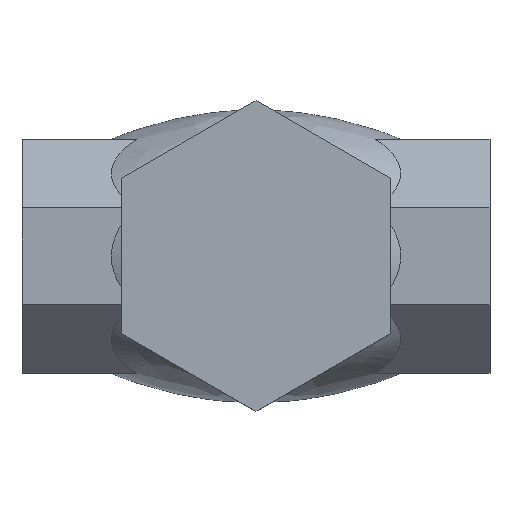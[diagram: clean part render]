
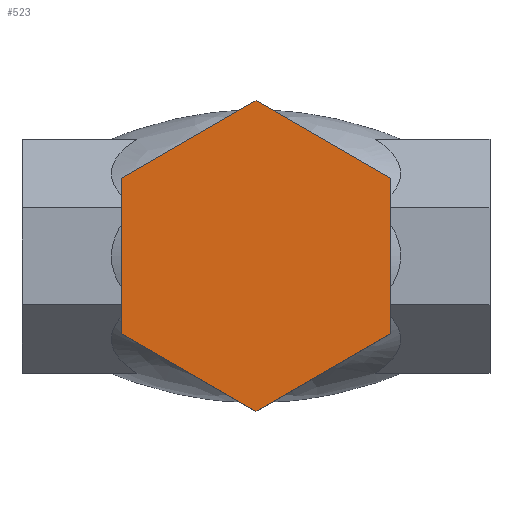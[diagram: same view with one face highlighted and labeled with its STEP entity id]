
A CAD part, top view. The second image highlights one B-rep face of the part: STEP entity #523.
In plain terms, the highlighted planar face has unit normal (0, 0, 1).
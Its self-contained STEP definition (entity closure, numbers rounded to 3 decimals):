
#47=FACE_OUTER_BOUND('',#75,.T.);
#75=EDGE_LOOP('',(#458,#459,#460,#461,#462,#463));
#111=LINE('',#1284,#162);
#115=LINE('',#1292,#166);
#118=LINE('',#1298,#169);
#121=LINE('',#1304,#172);
#124=LINE('',#1310,#175);
#127=LINE('',#1315,#178);
#162=VECTOR('',#644,10.);
#166=VECTOR('',#650,10.);
#169=VECTOR('',#655,10.);
#172=VECTOR('',#660,10.);
#175=VECTOR('',#665,10.);
#178=VECTOR('',#670,10.);
#237=VERTEX_POINT('',#1282);
#238=VERTEX_POINT('',#1283);
#241=VERTEX_POINT('',#1291);
#243=VERTEX_POINT('',#1297);
#245=VERTEX_POINT('',#1303);
#247=VERTEX_POINT('',#1309);
#305=EDGE_CURVE('',#237,#238,#111,.T.);
#309=EDGE_CURVE('',#238,#241,#115,.T.);
#312=EDGE_CURVE('',#241,#243,#118,.T.);
#315=EDGE_CURVE('',#243,#245,#121,.T.);
#318=EDGE_CURVE('',#245,#247,#124,.T.);
#321=EDGE_CURVE('',#247,#237,#127,.T.);
#458=ORIENTED_EDGE('',*,*,#321,.T.);
#459=ORIENTED_EDGE('',*,*,#305,.T.);
#460=ORIENTED_EDGE('',*,*,#309,.T.);
#461=ORIENTED_EDGE('',*,*,#312,.T.);
#462=ORIENTED_EDGE('',*,*,#315,.T.);
#463=ORIENTED_EDGE('',*,*,#318,.T.);
#495=PLANE('',#565);
#523=ADVANCED_FACE('',(#47),#495,.T.);
#565=AXIS2_PLACEMENT_3D('',#1317,#672,#673);
#644=DIRECTION('',(0.866,-0.5,0.));
#650=DIRECTION('',(0.866,0.5,0.));
#655=DIRECTION('',(0.,1.,0.));
#660=DIRECTION('',(-0.866,0.5,0.));
#665=DIRECTION('',(-0.866,-0.5,0.));
#670=DIRECTION('',(0.,-1.,0.));
#672=DIRECTION('center_axis',(0.,0.,1.));
#673=DIRECTION('ref_axis',(1.,0.,0.));
#1282=CARTESIAN_POINT('',(-46.,-26.558,87.5));
#1283=CARTESIAN_POINT('',(0.,-53.116,87.5));
#1284=CARTESIAN_POINT('',(-46.,-26.558,87.5));
#1291=CARTESIAN_POINT('',(46.,-26.558,87.5));
#1292=CARTESIAN_POINT('',(0.,-53.116,87.5));
#1297=CARTESIAN_POINT('',(46.,26.558,87.5));
#1298=CARTESIAN_POINT('',(46.,-26.558,87.5));
#1303=CARTESIAN_POINT('',(0.,53.116,87.5));
#1304=CARTESIAN_POINT('',(46.,26.558,87.5));
#1309=CARTESIAN_POINT('',(-46.,26.558,87.5));
#1310=CARTESIAN_POINT('',(0.,53.116,87.5));
#1315=CARTESIAN_POINT('',(-46.,26.558,87.5));
#1317=CARTESIAN_POINT('Origin',(0.,0.,
87.5));
